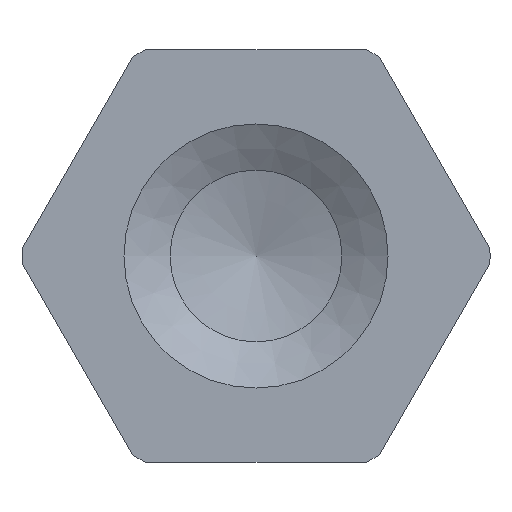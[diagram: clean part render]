
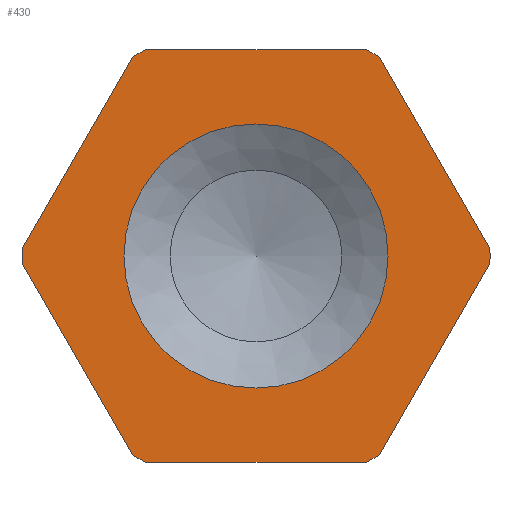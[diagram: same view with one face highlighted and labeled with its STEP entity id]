
A CAD part, left-side view. The second image highlights one B-rep face of the part: STEP entity #430.
In plain terms, the highlighted planar face has unit normal (-1, 0, 0).
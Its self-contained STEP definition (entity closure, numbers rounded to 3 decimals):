
#18=LINE($,#692,#42);
#19=LINE($,#696,#43);
#20=LINE($,#700,#44);
#21=LINE($,#704,#45);
#22=LINE($,#708,#46);
#23=LINE($,#712,#47);
#42=VECTOR($,#552,3.394);
#43=VECTOR($,#555,3.394);
#44=VECTOR($,#558,3.394);
#45=VECTOR($,#561,3.394);
#46=VECTOR($,#564,3.394);
#47=VECTOR($,#567,3.394);
#61=PLANE($,#472);
#90=FACE_BOUND($,#138,.T.);
#91=FACE_BOUND($,#139,.T.);
#138=EDGE_LOOP($,(#310));
#139=EDGE_LOOP($,(#311,#312,#313,#314,#315,#316,#317,#318,#319,#320,#321,
#322));
#176=CIRCLE($,#461,2.032);
#185=CIRCLE($,#473,3.6);
#186=CIRCLE($,#474,3.6);
#187=CIRCLE($,#475,3.6);
#188=CIRCLE($,#476,3.6);
#189=CIRCLE($,#477,3.6);
#190=CIRCLE($,#478,3.6);
#203=VERTEX_POINT($,#657);
#218=VERTEX_POINT($,#690);
#219=VERTEX_POINT($,#691);
#220=VERTEX_POINT($,#693);
#221=VERTEX_POINT($,#695);
#222=VERTEX_POINT($,#697);
#223=VERTEX_POINT($,#699);
#224=VERTEX_POINT($,#701);
#225=VERTEX_POINT($,#703);
#226=VERTEX_POINT($,#705);
#227=VERTEX_POINT($,#707);
#228=VERTEX_POINT($,#709);
#229=VERTEX_POINT($,#711);
#242=EDGE_CURVE($,#203,#203,#176,.T.);
#257=EDGE_CURVE($,#218,#219,#18,.T.);
#258=EDGE_CURVE($,#219,#220,#185,.T.);
#259=EDGE_CURVE($,#220,#221,#19,.T.);
#260=EDGE_CURVE($,#221,#222,#186,.T.);
#261=EDGE_CURVE($,#222,#223,#20,.T.);
#262=EDGE_CURVE($,#223,#224,#187,.T.);
#263=EDGE_CURVE($,#224,#225,#21,.T.);
#264=EDGE_CURVE($,#225,#226,#188,.T.);
#265=EDGE_CURVE($,#226,#227,#22,.T.);
#266=EDGE_CURVE($,#227,#228,#189,.T.);
#267=EDGE_CURVE($,#228,#229,#23,.T.);
#268=EDGE_CURVE($,#229,#218,#190,.T.);
#310=ORIENTED_EDGE($,*,*,#242,.T.);
#311=ORIENTED_EDGE($,*,*,#257,.T.);
#312=ORIENTED_EDGE($,*,*,#258,.T.);
#313=ORIENTED_EDGE($,*,*,#259,.T.);
#314=ORIENTED_EDGE($,*,*,#260,.T.);
#315=ORIENTED_EDGE($,*,*,#261,.T.);
#316=ORIENTED_EDGE($,*,*,#262,.T.);
#317=ORIENTED_EDGE($,*,*,#263,.T.);
#318=ORIENTED_EDGE($,*,*,#264,.T.);
#319=ORIENTED_EDGE($,*,*,#265,.T.);
#320=ORIENTED_EDGE($,*,*,#266,.T.);
#321=ORIENTED_EDGE($,*,*,#267,.T.);
#322=ORIENTED_EDGE($,*,*,#268,.T.);
#430=ADVANCED_FACE($,(#90,#91),#61,.T.);
#461=AXIS2_PLACEMENT_3D($,#658,#522,#523);
#472=AXIS2_PLACEMENT_3D($,#689,#550,#551);
#473=AXIS2_PLACEMENT_3D($,#694,#553,#554);
#474=AXIS2_PLACEMENT_3D($,#698,#556,#557);
#475=AXIS2_PLACEMENT_3D($,#702,#559,#560);
#476=AXIS2_PLACEMENT_3D($,#706,#562,#563);
#477=AXIS2_PLACEMENT_3D($,#710,#565,#566);
#478=AXIS2_PLACEMENT_3D($,#713,#568,#569);
#522=DIRECTION('center_axis',(1.,0.,0.));
#523=DIRECTION('ref_axis',(0.,-1.,0.));
#550=DIRECTION('center_axis',(-1.,0.,0.));
#551=DIRECTION('ref_axis',(0.,0.,1.));
#552=DIRECTION($,(0.,-0.5,-0.866));
#553=DIRECTION('center_axis',(-1.,0.,0.));
#554=DIRECTION('ref_axis',(0.,1.,0.));
#555=DIRECTION($,(0.,-1.,0.));
#556=DIRECTION('center_axis',(-1.,0.,0.));
#557=DIRECTION('ref_axis',(0.,1.,0.));
#558=DIRECTION($,(0.,-0.5,0.866));
#559=DIRECTION('center_axis',(-1.,0.,0.));
#560=DIRECTION('ref_axis',(0.,1.,0.));
#561=DIRECTION($,(0.,0.5,0.866));
#562=DIRECTION('center_axis',(-1.,0.,0.));
#563=DIRECTION('ref_axis',(0.,1.,0.));
#564=DIRECTION($,(0.,1.,0.));
#565=DIRECTION('center_axis',(-1.,0.,0.));
#566=DIRECTION('ref_axis',(0.,1.,0.));
#567=DIRECTION($,(0.,0.5,-0.866));
#568=DIRECTION('center_axis',(-1.,0.,0.));
#569=DIRECTION('ref_axis',(0.,1.,0.));
#657=CARTESIAN_POINT('',(-14.035,0.5,0.));
#658=CARTESIAN_POINT('Origin',(-14.035,2.532,0.));
#689=CARTESIAN_POINT('Origin',(-14.035,4.332,0.));
#690=CARTESIAN_POINT('',(-14.035,6.13,-0.118));
#691=CARTESIAN_POINT('',(-14.035,4.433,-3.057));
#692=CARTESIAN_POINT($,(-14.035,5.53,-1.157));
#693=CARTESIAN_POINT('',(-14.035,4.229,-3.175));
#694=CARTESIAN_POINT('Origin',(-14.035,2.532,0.));
#695=CARTESIAN_POINT('',(-14.035,0.835,-3.175));
#696=CARTESIAN_POINT($,(-14.035,3.479,-3.175));
#697=CARTESIAN_POINT('',(-14.035,0.631,-3.057));
#698=CARTESIAN_POINT('Origin',(-14.035,2.532,0.));
#699=CARTESIAN_POINT('',(-14.035,-1.066,-0.118));
#700=CARTESIAN_POINT($,(-14.035,0.031,-2.018));
#701=CARTESIAN_POINT('',(-14.035,-1.066,0.118));
#702=CARTESIAN_POINT('Origin',(-14.035,2.532,0.));
#703=CARTESIAN_POINT('',(-14.035,0.631,3.057));
#704=CARTESIAN_POINT($,(-14.035,-0.016,1.936));
#705=CARTESIAN_POINT('',(-14.035,0.835,3.175));
#706=CARTESIAN_POINT('Origin',(-14.035,2.532,0.));
#707=CARTESIAN_POINT('',(-14.035,4.229,3.175));
#708=CARTESIAN_POINT($,(-14.035,3.385,3.175));
#709=CARTESIAN_POINT('',(-14.035,4.433,3.057));
#710=CARTESIAN_POINT('Origin',(-14.035,2.532,0.));
#711=CARTESIAN_POINT('',(-14.035,6.13,0.118));
#712=CARTESIAN_POINT($,(-14.035,5.483,1.239));
#713=CARTESIAN_POINT('Origin',(-14.035,2.532,0.));
